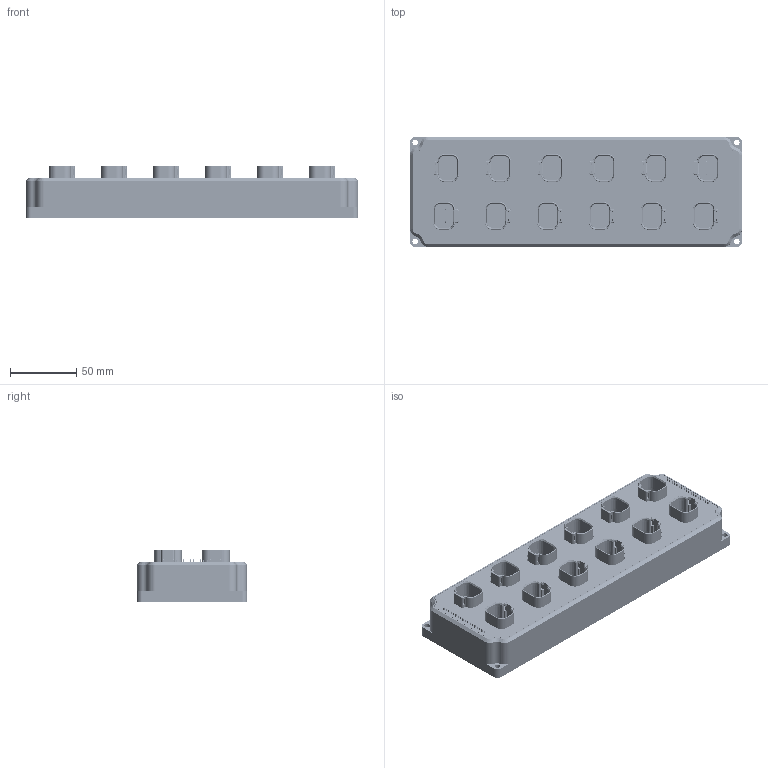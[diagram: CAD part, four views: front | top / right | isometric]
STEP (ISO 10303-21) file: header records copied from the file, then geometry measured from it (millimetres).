
FILE_DESCRIPTION (( 'STEP AP214' ), '1' );
FILE_NAME ('APDB-1IN11OD-2A-004.STEP', '2019-08-15T22:07:35', ( '' ), ( '' ), 'SwSTEP 2.0', 'SolidWorks 2014', '' );
FILE_SCHEMA (( 'AUTOMOTIVE_DESIGN' ));
Length unit declared in the file: inch
Products named in the file (29): c-dt15-4p-99-3d; APDB-1IN11OD-2A-004; Part1^APDB-1IN11OD-2A-004; Part2^APDB-1IN11OD-2A-004; extrusion box; TSW-118-19-T-S; _T-1S6-12-TSW-1-19-18-S; _TSW-118-19-T-S_body; board^APDB-1IN11OD-2A-004
Assembly tree (20 placements, depth 3):
  c-dt15-4p-99-3d
  c-dt15-4p-99-3d
  c-dt15-4p-99-3d
  c-dt15-4p-99-3d
  c-dt15-4p-99-3d
Bounding box: 251 x 83 x 39.1 mm (x, y, z)
Volume: 397654.5 mm3; surface area: 244163.2 mm2
Topology: 20 solids, 20 shells, 6666 faces, 17108 edges, 10688 vertices
Faces by surface type: plane 3406, cylinder 1940, bspline 1104, cone 204, torus 12
Entity records: 63743 total; most frequent: CARTESIAN_POINT 12266, ORIENTED_EDGE 8296, DIRECTION 7801, EDGE_CURVE 4148, LINE 3271, VECTOR 3271, VERTEX_POINT 2632, AXIS2_PLACEMENT_3D 2265
